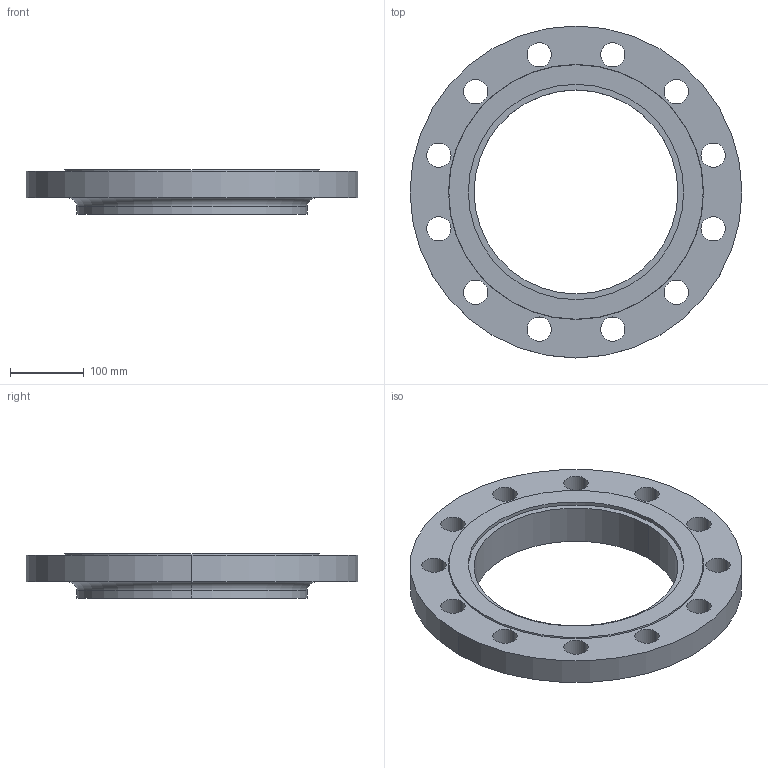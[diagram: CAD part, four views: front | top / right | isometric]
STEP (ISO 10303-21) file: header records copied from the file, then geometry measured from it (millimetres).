
FILE_DESCRIPTION (( 'STEP AP214' ), '1' );
FILE_NAME ('PN40 DN250 Type 12 - Type G Face.STEP', '2019-01-05T16:04:44', ( '' ), ( '' ), 'SwSTEP 2.0', 'SolidWorks 2019', '' );
FILE_SCHEMA (( 'AUTOMOTIVE_DESIGN' ));
Length unit declared in the file: millimetre
Products named in the file (1): PN40 DN250 Type 12 - Type G Face
Bounding box: 450 x 450 x 60 mm (x, y, z)
Volume: 3618873.2 mm3; surface area: 343911.4 mm2
Topology: 1 solids, 1 shells, 41 faces, 106 edges, 70 vertices
Faces by surface type: cylinder 32, plane 5, torus 2, cone 2
Entity records: 1382 total; most frequent: DIRECTION 262, CARTESIAN_POINT 218, ORIENTED_EDGE 212, AXIS2_PLACEMENT_3D 114, EDGE_CURVE 106, CIRCLE 72, VERTEX_POINT 70, EDGE_LOOP 70
